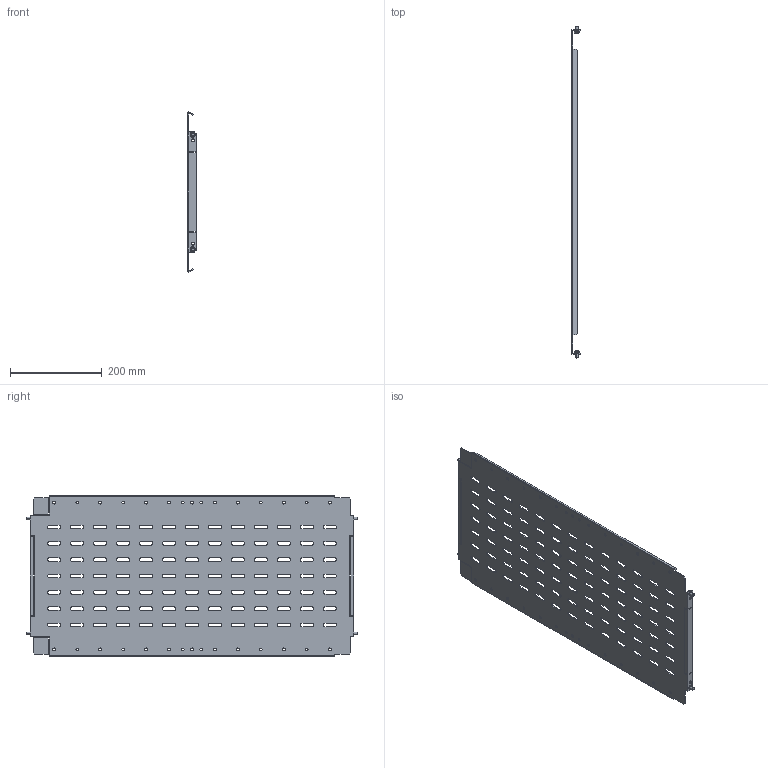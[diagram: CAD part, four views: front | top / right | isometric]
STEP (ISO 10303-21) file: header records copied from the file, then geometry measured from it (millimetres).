
FILE_DESCRIPTION (( 'STEP AP214' ), '1' );
FILE_NAME ('FO-00-SWV-035-080 Ïåðåãîðîäêà ñåêöèîíèðîâàíèÿ âåðòèêàëüíàÿ 350õ800 ìì.STEP', '2025-08-11T10:50:19', ( '' ), ( '' ), 'SwSTEP 2.0', 'SolidWorks 2023', '' );
FILE_SCHEMA (( 'AUTOMOTIVE_DESIGN' ));
Length unit declared in the file: millimetre
Products named in the file (1): FO-00-SWV-035-080 Перегородка секционирования вертикальная 350х800 мм
Bounding box: 17.5 x 722.5 x 348.93 mm (x, y, z)
Volume: 368016.7 mm3; surface area: 504601.1 mm2
Topology: 1 solids, 1 shells, 648 faces, 1890 edges, 1252 vertices
Faces by surface type: plane 350, cylinder 274, torus 16, cone 8
Entity records: 22109 total; most frequent: CARTESIAN_POINT 3791, ORIENTED_EDGE 3780, DIRECTION 3776, EDGE_CURVE 1890, VECTOR 1302, LINE 1302, VERTEX_POINT 1252, AXIS2_PLACEMENT_3D 1237
